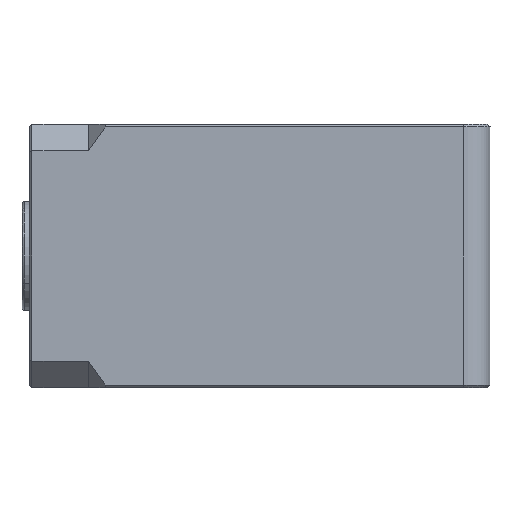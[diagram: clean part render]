
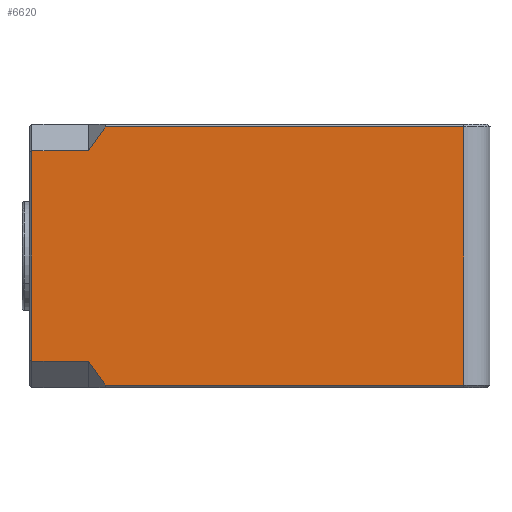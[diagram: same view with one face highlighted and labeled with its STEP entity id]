
A CAD part, left-side view. The second image highlights one B-rep face of the part: STEP entity #6620.
In plain terms, the highlighted planar face has unit normal (-1, 0, 0).
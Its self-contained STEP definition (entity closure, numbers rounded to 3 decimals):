
#110 = EDGE_CURVE ( 'NONE', #11414, #12707, #4240, .T. ) ;
#141 = DIRECTION ( 'NONE',  ( 0., -0.577, 0.817 ) ) ;
#870 = CARTESIAN_POINT ( 'NONE',  ( 0., 0., 19.8 ) ) ;
#910 = CARTESIAN_POINT ( 'NONE',  ( 0., 30.5, 18. ) ) ;
#1202 = ORIENTED_EDGE ( 'NONE', *, *, #3579, .F. ) ;
#1330 = VECTOR ( 'NONE', #3699, 1000. ) ;
#1668 = CARTESIAN_POINT ( 'NONE',  ( 0., 30.5, 2. ) ) ;
#1727 = LINE ( 'NONE', #11258, #4776 ) ;
#1799 = DIRECTION ( 'NONE',  ( 0., 0., -1. ) ) ;
#1828 = CARTESIAN_POINT ( 'NONE',  ( 0., 2., 0.2 ) ) ;
#1952 = EDGE_CURVE ( 'NONE', #7342, #9804, #2241, .T. ) ;
#1957 = CARTESIAN_POINT ( 'NONE',  ( 0., 29.227, 0.2 ) ) ;
#2241 = LINE ( 'NONE', #4911, #8006 ) ;
#2310 = EDGE_CURVE ( 'NONE', #12351, #11414, #4741, .T. ) ;
#2316 = CARTESIAN_POINT ( 'NONE',  ( 0., 34.8, 2. ) ) ;
#2537 = CARTESIAN_POINT ( 'NONE',  ( 0., 0., 0.2 ) ) ;
#2730 = ORIENTED_EDGE ( 'NONE', *, *, #9108, .F. ) ;
#3202 = DIRECTION ( 'NONE',  ( 0., 0., 1. ) ) ;
#3216 = EDGE_LOOP ( 'NONE', ( #2730, #4965, #8139, #1202, #3232, #3523, #5536, #6220 ) ) ;
#3232 = ORIENTED_EDGE ( 'NONE', *, *, #11293, .F. ) ;
#3291 = VECTOR ( 'NONE', #5557, 1000. ) ;
#3523 = ORIENTED_EDGE ( 'NONE', *, *, #9748, .F. ) ;
#3579 = EDGE_CURVE ( 'NONE', #3830, #10602, #10874, .T. ) ;
#3699 = DIRECTION ( 'NONE',  ( 0., 1., 0. ) ) ;
#3830 = VERTEX_POINT ( 'NONE', #1828 ) ;
#4240 = LINE ( 'NONE', #13923, #12050 ) ;
#4551 = VECTOR ( 'NONE', #1799, 1000. ) ;
#4741 = LINE ( 'NONE', #13387, #13223 ) ;
#4776 = VECTOR ( 'NONE', #3202, 1000. ) ;
#4911 = CARTESIAN_POINT ( 'NONE',  ( 0., 35., 2. ) ) ;
#4965 = ORIENTED_EDGE ( 'NONE', *, *, #1952, .F. ) ;
#5402 = FACE_OUTER_BOUND ( 'NONE', #3216, .T. ) ;
#5536 = ORIENTED_EDGE ( 'NONE', *, *, #110, .F. ) ;
#5557 = DIRECTION ( 'NONE',  ( 0., 0.577, 0.817 ) ) ;
#5880 = CARTESIAN_POINT ( 'NONE',  ( 0., 0., 20. ) ) ;
#5970 = DIRECTION ( 'NONE',  ( 0., 0., -1. ) ) ;
#6220 = ORIENTED_EDGE ( 'NONE', *, *, #2310, .F. ) ;
#6325 = LINE ( 'NONE', #8981, #3291 ) ;
#6620 = ADVANCED_FACE ( 'NONE', ( #5402 ), #11740, .F. ) ;
#6831 = DIRECTION ( 'NONE',  ( 0., -1., 0. ) ) ;
#7226 = DIRECTION ( 'NONE',  ( 0., 1., 0. ) ) ;
#7342 = VERTEX_POINT ( 'NONE', #1668 ) ;
#7534 = CARTESIAN_POINT ( 'NONE',  ( 0., 2., 20. ) ) ;
#7619 = LINE ( 'NONE', #7534, #4551 ) ;
#8006 = VECTOR ( 'NONE', #7226, 1000. ) ;
#8139 = ORIENTED_EDGE ( 'NONE', *, *, #12114, .F. ) ;
#8626 = CARTESIAN_POINT ( 'NONE',  ( 0., 2., 19.8 ) ) ;
#8981 = CARTESIAN_POINT ( 'NONE',  ( 0., 29.227, 0.2 ) ) ;
#9108 = EDGE_CURVE ( 'NONE', #9804, #12351, #1727, .T. ) ;
#9450 = VECTOR ( 'NONE', #6831, 1000. ) ;
#9471 = CARTESIAN_POINT ( 'NONE',  ( 0., 34.8, 18. ) ) ;
#9748 = EDGE_CURVE ( 'NONE', #12707, #14617, #9823, .T. ) ;
#9804 = VERTEX_POINT ( 'NONE', #2316 ) ;
#9823 = LINE ( 'NONE', #870, #9450 ) ;
#10602 = VERTEX_POINT ( 'NONE', #1957 ) ;
#10874 = LINE ( 'NONE', #2537, #1330 ) ;
#11258 = CARTESIAN_POINT ( 'NONE',  ( 0., 34.8, 20. ) ) ;
#11293 = EDGE_CURVE ( 'NONE', #14617, #3830, #7619, .T. ) ;
#11414 = VERTEX_POINT ( 'NONE', #910 ) ;
#11740 = PLANE ( 'NONE',  #13807 ) ;
#12050 = VECTOR ( 'NONE', #141, 1000. ) ;
#12114 = EDGE_CURVE ( 'NONE', #10602, #7342, #6325, .T. ) ;
#12351 = VERTEX_POINT ( 'NONE', #9471 ) ;
#12706 = CARTESIAN_POINT ( 'NONE',  ( 0., 29.227, 19.8 ) ) ;
#12707 = VERTEX_POINT ( 'NONE', #12706 ) ;
#12882 = DIRECTION ( 'NONE',  ( 1., 0., 0. ) ) ;
#13223 = VECTOR ( 'NONE', #14555, 1000. ) ;
#13387 = CARTESIAN_POINT ( 'NONE',  ( 0., 0., 18. ) ) ;
#13807 = AXIS2_PLACEMENT_3D ( 'NONE', #5880, #12882, #5970 ) ;
#13923 = CARTESIAN_POINT ( 'NONE',  ( 0., 30.5, 18. ) ) ;
#14555 = DIRECTION ( 'NONE',  ( 0., -1., 0. ) ) ;
#14617 = VERTEX_POINT ( 'NONE', #8626 ) ;
